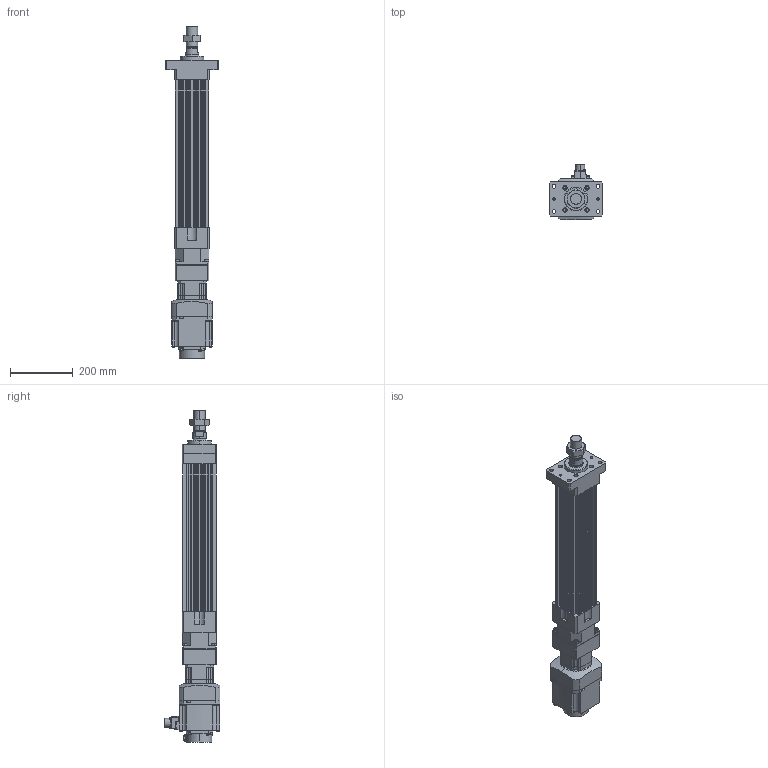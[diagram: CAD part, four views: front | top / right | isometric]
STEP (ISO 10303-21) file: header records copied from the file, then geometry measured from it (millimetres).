
FILE_DESCRIPTION (( 'STEP AP203' ), '1' );
FILE_NAME ('HES110NS(HS)-S300-W010G00-M-FM.STEP', '2023-01-27T07:16:59', ( 'tms' ), ( '' ), 'SwSTEP 2.0', 'SolidWorks 2013', '' );
FILE_SCHEMA (( 'CONFIG_CONTROL_DESIGN' ));
Length unit declared in the file: millimetre
Products named in the file (8): HES110-S300-G090-FM; P0401301004; AB0901; HES110NS(HS)-S300-W010G00-M-FM; HES110 ROD M ST300; AB090-003[HG-SR102B]; M36X1.5P; HG-SR102
Assembly tree (7 placements, depth 3):
  HES110NS(HS)-S300-W010G00-M-FM
    HES110-S300-G090-FM
    HES110 ROD M ST300
    M36X1.5P
    AB090-003[HG-SR102B]
      AB0901
      P0401301004
    HG-SR102
Bounding box: 170 x 177.49 x 1058.5 mm (x, y, z)
Volume: 6987069.9 mm3; surface area: 921307.1 mm2
Topology: 4 solids, 15 shells, 1165 faces, 2950 edges, 1921 vertices
Faces by surface type: plane 558, cylinder 523, cone 72, bspline 8, torus 4
Entity records: 37081 total; most frequent: CARTESIAN_POINT 7224, DIRECTION 6367, ORIENTED_EDGE 5848, EDGE_CURVE 2934, AXIS2_PLACEMENT_3D 2335, VERTEX_POINT 1921, LINE 1697, VECTOR 1697
